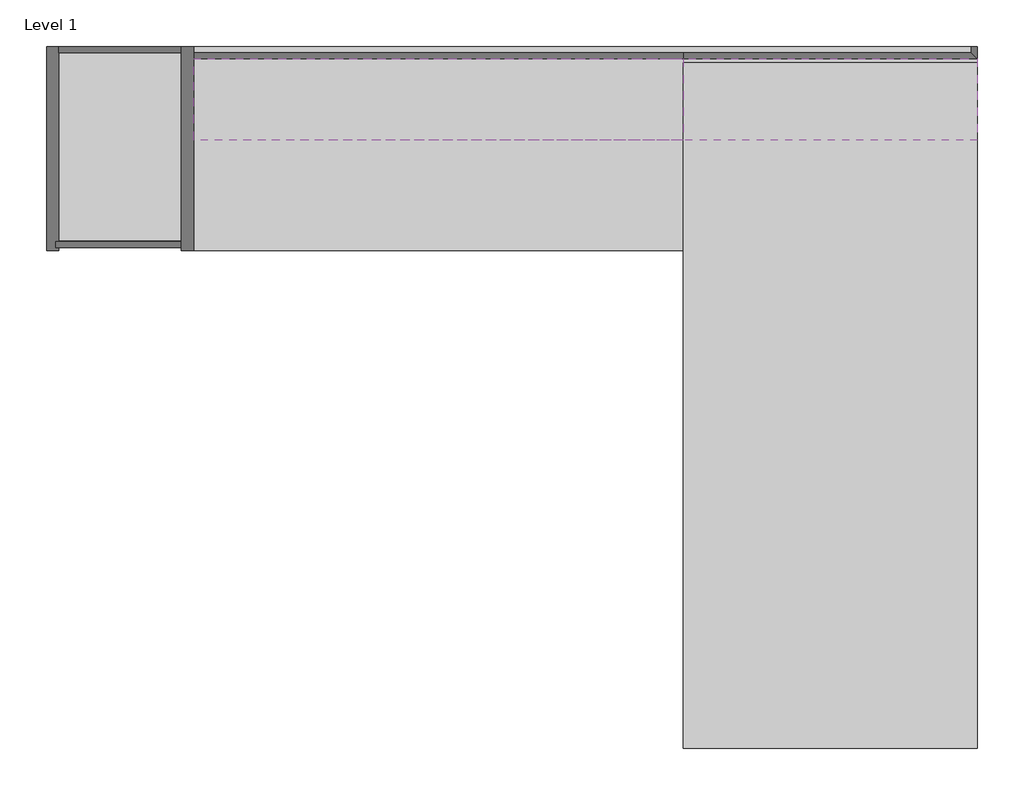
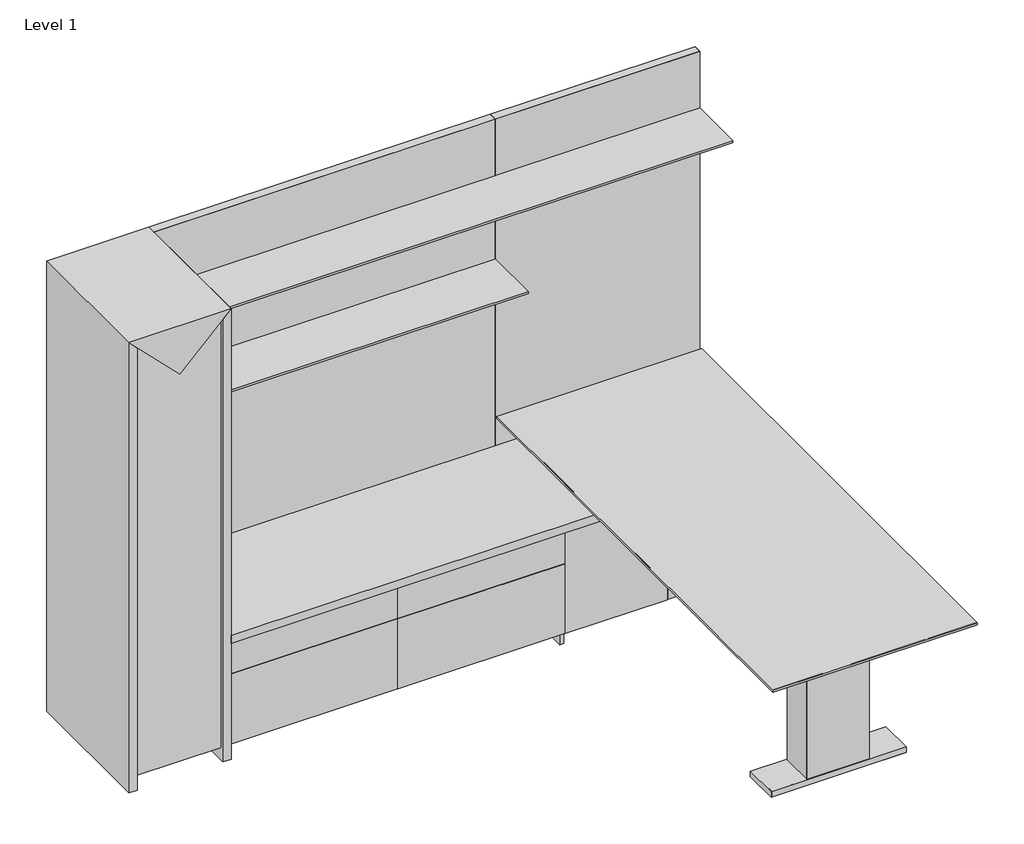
# One storey, incomplete: 11 proxies.
"""IFC4 building model written with IfcOpenShell, lengths in millimetres."""

import ifcopenshell
import ifcopenshell.guid

model = None  # the IFC model being written
_history = None  # IfcOwnerHistory: only IFC2X3 demands one
_inside = {}  # id of a spatial element -> (the spatial element, [elements in it])
_under = {}  # id of a project, library or spatial element -> (it, [spatial elements below it])
_declared = {}  # id of a project -> (the project, [libraries it declares])
_typed = {}  # id of a type object -> (the type object, [elements of that type])
_made_of = {}  # id of a material, layer set ... -> (it, [elements and type objects made of it])


def new_model(schema):
    """Start an empty IFC model of exactly this schema.

    Asked for "IFC4X3", IfcOpenShell would pick the latest addendum, in which some entities
    have other attributes; the version numbers below select the first issue.
    IFC2X3 requires an IfcOwnerHistory on every rooted entity: one is made here for all.
    """
    global model, _history
    if schema == "IFC4X3":
        model = ifcopenshell.file(schema_version=(4, 3, 0, 0))
    else:
        model = ifcopenshell.file(schema=schema)
    _inside.clear()
    _under.clear()
    _declared.clear()
    _typed.clear()
    _made_of.clear()
    _history = None
    if model.schema == "IFC2X3":
        org = make("IfcOrganization", Name="unknown")
        user = make(
            "IfcPersonAndOrganization",
            ThePerson=make("IfcPerson", FamilyName="unknown"),
            TheOrganization=org,
        )
        app = make(
            "IfcApplication",
            ApplicationDeveloper=org,
            Version="unknown",
            ApplicationFullName="unknown",
            ApplicationIdentifier="unknown",
        )
        _history = make(
            "IfcOwnerHistory",
            OwningUser=user,
            OwningApplication=app,
            ChangeAction="ADDED",
            CreationDate=0,
        )
    return model


def make(cls, **values):
    """One entity of the class cls with the attributes given. An attribute that is None is left unset."""
    return model.create_entity(
        cls, **{name: value for name, value in values.items() if value is not None}
    )


def rooted(cls, **values):
    """An entity with a GlobalId (a new one), such as an element, a storey or a relation."""
    return make(cls, GlobalId=ifcopenshell.guid.new(), OwnerHistory=_history, **values)


def si_unit(unit_type, name, prefix=None):
    """IfcSIUnit, for example si_unit("LENGTHUNIT", "METRE", prefix="MILLI")."""
    return make("IfcSIUnit", UnitType=unit_type, Prefix=prefix, Name=name)


def assignment(units):
    """IfcUnitAssignment: the units of a project."""
    return None if units is None else make("IfcUnitAssignment", Units=units)


def point(xyz):
    """IfcCartesianPoint."""
    return None if xyz is None else make("IfcCartesianPoint", Coordinates=xyz)


def direction(xyz):
    """IfcDirection."""
    return None if xyz is None else make("IfcDirection", DirectionRatios=xyz)


def frame(location, z_axis=None, x_axis=None):
    """IfcAxis2Placement3D, a coordinate frame: its origin and axes. An axis left out is left unset."""
    return make(
        "IfcAxis2Placement3D",
        Location=point(location),
        Axis=direction(z_axis),
        RefDirection=direction(x_axis),
    )


def origin():
    """The frame at (0, 0, 0) with its axes left unset."""
    return frame((0.0, 0.0, 0.0))


def place(relative_to, where):
    """IfcLocalPlacement: puts the frame where relative to a parent placement (None: the world)."""
    return make(
        "IfcLocalPlacement", PlacementRelTo=relative_to, RelativePlacement=where
    )


def context(
    kind, dimensions, precision=None, world=None, true_north=None, identifier=None
):
    """IfcGeometricRepresentationContext, for example the 3D "Model" context."""
    return make(
        "IfcGeometricRepresentationContext",
        ContextIdentifier=identifier,
        ContextType=kind,
        CoordinateSpaceDimension=dimensions,
        Precision=precision,
        WorldCoordinateSystem=world,
        TrueNorth=true_north,
    )


def project(units=None, contexts=None):
    """IfcProject with its units and contexts."""
    return rooted(
        "IfcProject",
        Name="project",
        RepresentationContexts=contexts,
        UnitsInContext=assignment(units),
    )


def spatial(cls, under=None, at=None, **own):
    """A site, building, storey or space (cls), placed at a placement, below another one or the project."""
    s = rooted(cls, ObjectPlacement=at, **own)
    if under is not None:
        _under.setdefault(under.id(), (under, []))[1].append(s)
    return s


def polyline(points):
    """IfcPolyline through the points."""
    return make("IfcPolyline", Points=[point(p) for p in points])


def outline(outer, holes=None, kind="AREA"):
    """IfcArbitraryClosedProfileDef: a profile drawn as a closed curve; with holes, ...WithVoids."""
    if holes is None:
        return make("IfcArbitraryClosedProfileDef", ProfileType=kind, OuterCurve=outer)
    return make(
        "IfcArbitraryProfileDefWithVoids",
        ProfileType=kind,
        OuterCurve=outer,
        InnerCurves=holes,
    )


def extrude(swept, where, along, depth):
    """IfcExtrudedAreaSolid: the profile swept, set in the frame where, extruded along a direction by depth."""
    return make(
        "IfcExtrudedAreaSolid",
        SweptArea=swept,
        Position=where,
        ExtrudedDirection=direction(along),
        Depth=depth,
    )


def faces_of(points, faces, orient=None, outer=None):
    """IfcFace entities. A face is a list of loops; a loop is a list of indices into points, from 0.

    orient and outer hold one flag for each loop. By default every Orientation is true, the
    first loop of a face is its IfcFaceOuterBound and the others are IfcFaceBound.
    """
    made = []
    for i, loops in enumerate(faces):
        bounds = []
        for j, loop in enumerate(loops):
            is_outer = j == 0 if outer is None else outer[i][j]
            bounds.append(
                make(
                    "IfcFaceOuterBound" if is_outer else "IfcFaceBound",
                    Bound=make("IfcPolyLoop", Polygon=[points[k] for k in loop]),
                    Orientation=True if orient is None else orient[i][j],
                )
            )
        made.append(make("IfcFace", Bounds=bounds))
    return made


def faceted_brep(points, faces, orient=None, outer=None, voids=None):
    """IfcFacetedBrep: a solid bounded by flat faces; with voids (closed shells), ...WithVoids."""
    shared = [point(p) for p in points]
    hull = make("IfcClosedShell", CfsFaces=faces_of(shared, faces, orient, outer))
    if voids is None:
        return make("IfcFacetedBrep", Outer=hull)
    return make(
        "IfcFacetedBrepWithVoids",
        Outer=hull,
        Voids=[
            make(cls, CfsFaces=faces_of(shared, fs, o, b)) for cls, fs, o, b in voids
        ],
    )


def shape(context_of_items, identifier, shape_type, items):
    """IfcShapeRepresentation: the items that make up one representation, for example the "Body"."""
    return make(
        "IfcShapeRepresentation",
        ContextOfItems=context_of_items,
        RepresentationIdentifier=identifier,
        RepresentationType=shape_type,
        Items=items,
    )


def source(mapping_origin, context_of_items, identifier, shape_type, items):
    """IfcRepresentationMap: a shape defined once, which mapped items show again and again."""
    return make(
        "IfcRepresentationMap",
        MappingOrigin=mapping_origin,
        MappedRepresentation=shape(context_of_items, identifier, shape_type, items),
    )


def transform(
    local_origin,
    x_axis=None,
    y_axis=None,
    z_axis=None,
    scale=None,
    scale2=None,
    scale3=None,
    uniform=True,
):
    """IfcCartesianTransformationOperator3D, or its non-uniform kind. x_axis, y_axis, z_axis: its Axis1, 2, 3."""
    if uniform:
        return make(
            "IfcCartesianTransformationOperator3D",
            Axis1=direction(x_axis),
            Axis2=direction(y_axis),
            LocalOrigin=point(local_origin),
            Scale=scale,
            Axis3=direction(z_axis),
        )
    return make(
        "IfcCartesianTransformationOperator3DnonUniform",
        Axis1=direction(x_axis),
        Axis2=direction(y_axis),
        LocalOrigin=point(local_origin),
        Scale=scale,
        Axis3=direction(z_axis),
        Scale2=scale2,
        Scale3=scale3,
    )


def mapped(mapping_source, mapping_target):
    """IfcMappedItem: shows the shape of a source again, moved by a transform."""
    return make(
        "IfcMappedItem", MappingSource=mapping_source, MappingTarget=mapping_target
    )


def made_of(thing, what):
    """Note that an element or type object is made of a material, layer set ...; save() writes the relation."""
    if what is not None:
        _made_of.setdefault(what.id(), (what, []))[1].append(thing)
    return thing


def element(
    cls,
    number,
    at=None,
    inside=None,
    cuts=None,
    type_object=None,
    material=None,
    context=None,
    identifier="Body",
    shape_type=None,
    held_by="IfcProductDefinitionShape",
    body=None,
    shapes=None,
    **own,
):
    """One element of the class cls, such as IfcWall. Its Tag is "e" and its number.

    at: its placement. inside: the storey or other place that contains it. cuts: it is an
    opening in that element (IfcRelVoidsElement). A single representation is given by context,
    identifier, shape_type and body (its items); several are given by shapes. held_by: the class
    of the entity that holds the representations. save() writes the other relations.
    """
    e = rooted(cls, Tag="e%d" % number, ObjectPlacement=at, **own)
    if body is not None:
        shapes = [shape(context, identifier, shape_type, body)]
    if shapes is not None:
        e.Representation = make(held_by, Representations=shapes)
    if inside is not None:
        _inside.setdefault(inside.id(), (inside, []))[1].append(e)
    if cuts is not None:
        rooted(
            "IfcRelVoidsElement", RelatingBuildingElement=cuts, RelatedOpeningElement=e
        )
    if type_object is not None:
        _typed.setdefault(type_object.id(), (type_object, []))[1].append(e)
    return made_of(e, material)


def aggregate(whole, parts):
    """IfcRelAggregates: a whole, such as a stair, and the parts it consists of."""
    return rooted("IfcRelAggregates", RelatingObject=whole, RelatedObjects=parts)


def save(model, path):
    """Write the relations noted so far, then the file.

    IfcRelAggregates (storeys below a building ...), IfcRelContainedInSpatialStructure (elements
    in a storey), IfcRelDefinesByType, IfcRelAssociatesMaterial and IfcRelDeclares: one each for
    every whole, place, type object, material and project.
    """
    for whole, parts in _under.values():
        aggregate(whole, parts)
    for where, things in _inside.values():
        rooted(
            "IfcRelContainedInSpatialStructure",
            RelatedElements=things,
            RelatingStructure=where,
        )
    for kind, things in _typed.values():
        rooted("IfcRelDefinesByType", RelatedObjects=things, RelatingType=kind)
    for what, things in _made_of.values():
        rooted("IfcRelAssociatesMaterial", RelatedObjects=things, RelatingMaterial=what)
    for by, libraries in _declared.values():
        rooted("IfcRelDeclares", RelatingContext=by, RelatedDefinitions=libraries)
    model.write(path)


def generic_models_b56b2c29(model_context):
    return source(origin(), model_context, "Body", "SweptSolid", [
        extrude(outline(polyline([(234.95, 0.0), (0.0, 0.0), (0.0, 558.8), (234.95, 558.8), (234.95, 0.0)])), frame((0.0, 0.0, -107.95), z_axis=(0.0, 0.0, 1.0), x_axis=(1.0, 0.0, 0.0)), (0.0, 0.0, 1.0), 107.95),
    ])


def generic_models_52880e5b(model_context):
    return source(origin(), model_context, "Body", "SweptSolid", [
        extrude(outline(polyline([(-76.2, 203.2), (-152.4, 279.4), (0.0, 279.4), (-76.2, 203.2)])), frame((0.0, 0.0, 0.0), z_axis=(0.0, 1.0, 0.0), x_axis=(0.0, 0.0, 1.0)), (0.0, 0.0, 1.0), 557.784),
        extrude(outline(polyline([(0.0, 0.0), (-139.7, 139.7), (0.0, 279.4), (0.0, 0.0)])), frame((0.0, 0.0, 0.0), z_axis=(0.0, 1.0, 0.0), x_axis=(0.0, 0.0, 1.0)), (0.0, 0.0, 1.0), 557.784),
        extrude(outline(polyline([(-152.4, 0.0), (-76.2, 76.2), (0.0, 0.0), (-152.4, 0.0)])), frame((0.0, 0.0, 0.0), z_axis=(0.0, 1.0, 0.0), x_axis=(0.0, 0.0, 1.0)), (0.0, 0.0, 1.0), 557.784),
        extrude(outline(polyline([(-12.7, 139.7), (-152.4, 0.0), (-152.4, 279.4), (-12.7, 139.7)])), frame((0.0, 0.0, 0.0), z_axis=(0.0, 1.0, 0.0), x_axis=(0.0, 0.0, 1.0)), (0.0, 0.0, 1.0), 557.784),
    ])


def generic_models_b56694ea(model_context):
    return source(origin(), model_context, "Body", "Brep", [
        faceted_brep([(1417.3566482, 0.0, -254.0), (1524.0, 28.575, -254.0), (1524.0, 28.575, 0.0), (1417.3566482, 0.0, -106.6433518), (0.0, 0.0, -106.6433518), (0.0, 0.0, -254.0), (0.0, 28.575, 0.0), (0.0, 38.1, 0.0), (0.0, 38.1, -254.0), (1524.0, 38.1, 0.0), (1524.0, 38.1, -254.0)], [[[0, 1, 2, 3]], [[0, 3, 4, 5]], [[3, 2, 6, 4]], [[4, 6, 7, 8, 5]], [[6, 2, 9, 7]], [[1, 0, 5, 8, 10]], [[2, 1, 10, 9]], [[9, 10, 8, 7]]]),
    ])


def generic_models_a2e1cb9b(model_context):
    return source(origin(), model_context, "Body", "SweptSolid", [
        extrude(outline(polyline([(109.5375, 24.384), (157.1625, 24.384), (157.1625, -1.016), (109.5375, -1.016), (109.5375, 24.384)])), frame((0.0, 0.0, -600.075), z_axis=(0.0, 0.0, 1.0), x_axis=(1.0, 0.0, 0.0)), (0.0, 0.0, 1.0), 596.9),
        extrude(outline(polyline([(1.5875, 24.384), (49.2125, 24.384), (49.2125, -1.016), (1.5875, -1.016), (1.5875, 24.384)])), frame((0.0, 0.0, -600.075), z_axis=(0.0, 0.0, 1.0), x_axis=(1.0, 0.0, 0.0)), (0.0, 0.0, 1.0), 596.9),
        extrude(outline(polyline([(158.75, 25.4), (158.75, 0.0), (0.0, 0.0), (0.0, 25.4), (158.75, 25.4)])), frame((0.0, 0.0, -603.25), z_axis=(0.0, 0.0, 1.0), x_axis=(1.0, 0.0, 0.0)), (0.0, 0.0, 1.0), 603.25),
    ])


def generic_models_8c807e3c(model_context):
    return source(origin(), model_context, "Body", "SweptSolid", [
        extrude(outline(polyline([(2400.3, -457.2), (2400.3, -482.6), (0.0, -482.6), (0.0, -457.2), (2400.3, -457.2)])), frame((0.0, 0.0, -615.95), z_axis=(0.0, 0.0, 1.0), x_axis=(1.0, 0.0, 0.0)), (0.0, 0.0, 1.0), 584.2),
        extrude(outline(polyline([(0.0, -546.1), (0.0, 0.0), (2400.3, 0.0), (2400.3, -546.1), (0.0, -546.1)])), frame((0.0, 0.0, -635.0), z_axis=(0.0, 0.0, 1.0), x_axis=(1.0, 0.0, 0.0)), (0.0, 0.0, 1.0), 19.05),
        extrude(outline(polyline([(747.7125, 9.525), (747.7125, -150.01875), (2.38125, -150.01875), (2.38125, 9.525), (747.7125, 9.525)])), frame((0.0, 0.0, -28.575), z_axis=(0.0, 0.0, 1.0), x_axis=(1.0, 0.0, 0.0)), (0.0, 0.0, 1.0), 19.05),
        extrude(outline(polyline([(1495.425, 9.525), (1495.425, -150.01875), (750.09375, -150.01875), (750.09375, 9.525), (1495.425, 9.525)])), frame((0.0, 0.0, -28.575), z_axis=(0.0, 0.0, 1.0), x_axis=(1.0, 0.0, 0.0)), (0.0, 0.0, 1.0), 19.05),
        extrude(outline(polyline([(1952.625, 9.525), (1952.625, -482.6), (1497.80625, -482.6), (1497.80625, 9.525), (1952.625, 9.525)])), frame((0.0, 0.0, -28.575), z_axis=(0.0, 0.0, 1.0), x_axis=(1.0, 0.0, 0.0)), (0.0, 0.0, 1.0), 19.05),
        extrude(outline(polyline([(2409.825, -482.6), (1955.00625, -482.6), (1955.00625, 9.525), (2409.825, 9.525), (2409.825, -482.6)])), frame((0.0, 0.0, -28.575), z_axis=(0.0, 0.0, 1.0), x_axis=(1.0, 0.0, 0.0)), (0.0, 0.0, 1.0), 19.05),
        extrude(outline(polyline([(747.7125, -482.6), (2.38125, -482.6), (2.38125, -152.4), (747.7125, -152.4), (747.7125, -482.6)])), frame((0.0, 0.0, -28.575), z_axis=(0.0, 0.0, 1.0), x_axis=(1.0, 0.0, 0.0)), (0.0, 0.0, 1.0), 19.05),
        extrude(outline(polyline([(1495.425, -482.6), (750.09375, -482.6), (750.09375, -152.4), (1495.425, -152.4), (1495.425, -482.6)])), frame((0.0, 0.0, -28.575), z_axis=(0.0, 0.0, 1.0), x_axis=(1.0, 0.0, 0.0)), (0.0, 0.0, 1.0), 19.05),
        extrude(outline(polyline([(2400.3, 0.0), (2400.3, -546.1), (1504.95, -546.1), (1504.95, 0.0), (2400.3, 0.0)])), frame((0.0, 0.0, -311.2135), z_axis=(0.0, 0.0, 1.0), x_axis=(1.0, 0.0, 0.0)), (0.0, 0.0, 1.0), 19.05),
        extrude(outline(polyline([(762.0, -457.2), (742.95, -457.2), (742.95, 0.0), (762.0, 0.0), (762.0, -457.2)])), frame((0.0, 0.0, -615.95), z_axis=(0.0, 0.0, 1.0), x_axis=(1.0, 0.0, 0.0)), (0.0, 0.0, 1.0), 584.2),
        extrude(outline(polyline([(0.0, -482.6), (2400.3, -482.6), (2400.3, -546.1), (0.0, -546.1), (0.0, -482.6)])), frame((0.0, 0.0, -266.7), z_axis=(0.0, 0.0, 1.0), x_axis=(1.0, 0.0, 0.0)), (0.0, 0.0, 1.0), 63.5),
        extrude(outline(polyline([(1485.9, -546.1), (1485.9, 0.0), (1504.95, 0.0), (1504.95, -546.1), (1485.9, -546.1)])), frame((0.0, 0.0, -615.95), z_axis=(0.0, 0.0, 1.0), x_axis=(1.0, 0.0, 0.0)), (0.0, 0.0, 1.0), 584.2),
        extrude(outline(polyline([(19.05, -457.2), (0.0, -457.2), (0.0, 0.0), (19.05, 0.0), (19.05, -457.2)])), frame((0.0, 0.0, -615.95), z_axis=(0.0, 0.0, 1.0), x_axis=(1.0, 0.0, 0.0)), (0.0, 0.0, 1.0), 584.2),
        extrude(outline(polyline([(1504.95, -511.6576), (1504.95, -492.6076), (2400.3, -492.6076), (2400.3, -511.6576), (1504.95, -511.6576)])), frame((0.0, 0.0, -615.95), z_axis=(0.0, 0.0, 1.0), x_axis=(1.0, 0.0, 0.0)), (0.0, 0.0, 1.0), 304.7365),
        extrude(outline(polyline([(2438.4, 38.1), (2400.3, 0.0), (0.0, 0.0), (0.0, 38.1), (2438.4, 38.1)])), frame((0.0, 0.0, -635.0), z_axis=(0.0, 0.0, 1.0), x_axis=(1.0, 0.0, 0.0)), (0.0, 0.0, 1.0), 635.0),
        extrude(outline(polyline([(2438.4, 38.1), (2438.4, -546.1), (2400.3, -546.1), (2400.3, 0.0), (2438.4, 38.1)])), frame((0.0, 0.0, -635.0), z_axis=(0.0, 0.0, 1.0), x_axis=(1.0, 0.0, 0.0)), (0.0, 0.0, 1.0), 635.0),
    ])


def generic_models_f8e0482d(model_context):
    return source(origin(), model_context, "Body", "Brep", [
        faceted_brep([(914.4, 1543.05, -19.05), (914.4, 1543.05, 19.05), (914.4, 0.0, 19.05), (914.4, 0.0, -19.05), (895.35, 1524.0, 0.0), (895.35, 0.0, 0.0), (895.35, 1524.0, -19.05), (895.35, 0.0, -19.05)], [[[0, 1, 2, 3]], [[1, 4, 5, 2]], [[4, 6, 7, 5]], [[6, 0, 3, 7]], [[3, 2, 5, 7]], [[4, 1, 0, 6]]]),
        faceted_brep([(895.35, 1524.0, 0.0), (914.4, 1543.05, 19.05), (914.4, 0.0, 19.05), (895.35, 0.0, 0.0), (0.0, 0.0, 0.0), (0.0, 1524.0, 0.0), (0.0, 0.0, 19.05), (0.0, 1543.05, 19.05)], [[[0, 1, 2, 3]], [[0, 3, 4, 5]], [[3, 2, 6, 4]], [[1, 0, 5, 7]], [[7, 5, 4, 6]], [[2, 1, 7, 6]]]),
        faceted_brep([(895.35, 1524.0, -19.05), (914.4, 1543.05, -19.05), (914.4, 1543.05, 19.05), (895.35, 1524.0, 0.0), (0.0, 1524.0, -19.05), (0.0, 1543.05, -19.05), (0.0, 1524.0, 0.0), (0.0, 1543.05, 19.05)], [[[0, 1, 2, 3]], [[1, 0, 4, 5]], [[0, 3, 6, 4]], [[5, 7, 2, 1]], [[3, 2, 7, 6]], [[7, 5, 4, 6]]]),
    ])


def generic_models_f49f403f(model_context):
    return source(origin(), model_context, "Body", "SweptSolid", [
        extrude(outline(polyline([(38.1, 63.5), (38.1, 88.9), (419.1, 88.9), (419.1, 63.5), (38.1, 63.5)])), frame((0.0, 0.0, -615.95), z_axis=(0.0, 0.0, 1.0), x_axis=(1.0, 0.0, 0.0)), (0.0, 0.0, 1.0), 584.2),
        extrude(outline(polyline([(457.2, 2127.25), (228.6, 1898.65), (0.0, 2127.25), (457.2, 2127.25)])), frame((0.0, 0.0, -635.0), z_axis=(0.0, 0.0, 1.0), x_axis=(1.0, 0.0, 0.0)), (0.0, 0.0, 1.0), 635.0),
        extrude(outline(polyline([(419.1, 0.0), (419.1, 2089.15), (457.2, 2127.25), (457.2, 0.0), (419.1, 0.0)])), frame((0.0, 0.0, -635.0), z_axis=(0.0, 0.0, 1.0), x_axis=(1.0, 0.0, 0.0)), (0.0, 0.0, 1.0), 635.0),
        extrude(outline(polyline([(38.1, 63.5), (419.1, 63.5), (419.1, 0.0), (38.1, 0.0), (38.1, 63.5)])), frame((0.0, 0.0, -266.7), z_axis=(0.0, 0.0, 1.0), x_axis=(1.0, 0.0, 0.0)), (0.0, 0.0, 1.0), 63.5),
        extrude(outline(polyline([(419.1, 0.0), (38.1, 0.0), (38.1, 2089.15), (419.1, 2089.15), (419.1, 0.0)])), frame((0.0, 0.0, -635.0), z_axis=(0.0, 0.0, 1.0), x_axis=(1.0, 0.0, 0.0)), (0.0, 0.0, 1.0), 19.05),
        extrude(outline(polyline([(428.625, 2098.675), (428.625, 63.5), (28.575, 63.5), (28.575, 2098.675), (428.625, 2098.675)])), frame((0.0, 0.0, -28.575), z_axis=(0.0, 0.0, 1.0), x_axis=(1.0, 0.0, 0.0)), (0.0, 0.0, 1.0), 19.05),
        extrude(outline(polyline([(0.0, 2127.25), (38.1, 2089.15), (38.1, 0.0), (0.0, 0.0), (0.0, 2127.25)])), frame((0.0, 0.0, -635.0), z_axis=(0.0, 0.0, 1.0), x_axis=(1.0, 0.0, 0.0)), (0.0, 0.0, 1.0), 635.0),
    ])


def generic_models_580d9588(model_context):
    return source(origin(), model_context, "Body", "SweptSolid", [
        extrude(outline(polyline([(1543.05, 19.05), (1524.0, 0.0), (0.0, 0.0), (0.0, 19.05), (1543.05, 19.05)])), frame((0.0, 0.0, 0.0), z_axis=(1.0, 0.0, 0.0), x_axis=(0.0, 1.0, 0.0)), (0.0, 0.0, 1.0), 1524.0),
        extrude(outline(polyline([(1543.05, 19.05), (1543.05, -19.05), (1524.0, -19.05), (1524.0, 0.0), (1543.05, 19.05)])), frame((0.0, 0.0, 0.0), z_axis=(1.0, 0.0, 0.0), x_axis=(0.0, 1.0, 0.0)), (0.0, 0.0, 1.0), 1524.0),
    ])


def generic_models_ffb11fbf(model_context):
    return source(origin(), model_context, "Body", "SolidModel", [
        faceted_brep([(-1014.555968, 22.225, 404.955968), (-609.6, -86.2826246, 0.0), (-1014.555968, 22.225, -404.955968), (-609.6, -99.4306321, 0.0), (-1063.625, 22.225, 454.025), (-1063.625, 22.225, -454.025), (609.6, -86.2826246, 0.0), (1014.555968, 22.225, -404.955968), (1063.625, 22.225, -454.025), (609.6, -99.4306321, 0.0), (1014.555968, 22.225, 404.955968), (1063.625, 22.225, 454.025)], [[[0, 1, 2]], [[3, 4, 5]], [[1, 6, 7, 2]], [[8, 9, 3, 5]], [[6, 10, 7]], [[9, 8, 11]], [[4, 11, 8, 5], [0, 2, 7, 10]], [[9, 11, 4, 3]], [[10, 6, 1, 0]]]),
        extrude(outline(polyline([(1066.8, 22.225), (-1066.8, 22.225), (-1066.8, 31.75), (1066.8, 31.75), (1066.8, 22.225)])), frame((0.0, 0.0, -457.2), z_axis=(0.0, 0.0, 1.0), x_axis=(1.0, 0.0, 0.0)), (0.0, 0.0, 1.0), 914.4),
        extrude(outline(polyline([(1063.625, 22.225), (-1063.625, 22.225), (-1063.625, 31.75), (1063.625, 31.75), (1063.625, 22.225)])), frame((0.0, 0.0, -454.025), z_axis=(0.0, 0.0, 1.0), x_axis=(1.0, 0.0, 0.0)), (0.0, 0.0, 1.0), 908.05),
    ])


def generic_models_57509ba5(model_context):
    return source(origin(), model_context, "Body", "Brep", [
        faceted_brep([(2331.7566482, 0.0, -254.0), (2438.4, 28.575, -254.0), (2438.4, 28.575, 0.0), (2331.7566482, 0.0, -106.6433518), (0.0, 0.0, -106.6433518), (0.0, 0.0, -254.0), (0.0, 28.575, 0.0), (0.0, 38.1, 0.0), (0.0, 38.1, -254.0), (2438.4, 38.1, 0.0), (2438.4, 38.1, -254.0)], [[[0, 1, 2, 3]], [[0, 3, 4, 5]], [[3, 2, 6, 4]], [[4, 6, 7, 8, 5]], [[6, 2, 9, 7]], [[1, 0, 5, 8, 10]], [[2, 1, 10, 9]], [[9, 10, 8, 7]]]),
    ])


model = new_model("IFC4")

# Units and contexts
model_context = context("Model", 3, world=origin())
ifc_project = project(units=[si_unit("LENGTHUNIT", "METRE", prefix="MILLI")], contexts=[model_context])

# Site, building, storey
site = spatial("IfcSite", under=ifc_project)
building = spatial("IfcBuilding", under=site)
storey = spatial("IfcBuildingStorey", under=building, Name="Level 1", Elevation=0.0)

# Proxies
placement = place(None, origin())
generic_models_shape = generic_models_b56b2c29(model_context)
element("IfcBuildingElementProxy", 1, Name="AERO^OFFICE 1_DESK SUPPORT LEG-SMALL END SHROUD", ObjectType="AERO^OFFICE 1_DESK SUPPORT LEG-SMALL END SHROUD", at=placement, inside=storey, context=model_context, shape_type="MappedRepresentation", body=[
    mapped(generic_models_shape, transform((2320.925, -552.45, 139.7), x_axis=(1.0, 0.0, 0.0), y_axis=(0.0, 0.0, 1.0), z_axis=(0.0, -1.0, 0.0))),
])
element("IfcBuildingElementProxy", 2, Name="AERO^OFFICE 1_DESK SUPPORT LEG-SMALL END SHROUD", ObjectType="AERO^OFFICE 1_DESK SUPPORT LEG-SMALL END SHROUD", at=placement, inside=storey, context=model_context, shape_type="MappedRepresentation", body=[
    mapped(generic_models_shape, transform((2555.875, -1768.7227, 139.7), x_axis=(-1.0, 0.0, 0.0), y_axis=(0.0, 0.0, 1.0), z_axis=(0.0, 1.0, 0.0))),
])
generic_models_2_shape = generic_models_52880e5b(model_context)
element("IfcBuildingElementProxy", 3, Name="AERO^OFFICE 1_DESK SUPPORT LEG-PARTS SOLID", ObjectType="AERO^OFFICE 1_DESK SUPPORT LEG-PARTS SOLID", at=placement, inside=storey, context=model_context, shape_type="MappedRepresentation", body=[
    mapped(generic_models_2_shape, transform((2578.1, -1746.4977, 26.416), x_axis=(-1.0, 0.0, 0.0), y_axis=(0.0, 0.0, 1.0), z_axis=(0.0, 1.0, 0.0))),
])
generic_models_3_shape = generic_models_b56694ea(model_context)
element("IfcBuildingElementProxy", 4, Name="AERO^OFFICE 1_WALL HUNG SHELVES-10x60", ObjectType="AERO^OFFICE 1_WALL HUNG SHELVES-10x60", at=placement, inside=storey, context=model_context, shape_type="MappedRepresentation", body=[
    mapped(generic_models_3_shape, transform((457.2, -292.1, 1428.75), x_axis=(1.0, 0.0, 0.0), y_axis=(0.0, 0.0, 1.0), z_axis=(0.0, -1.0, 0.0))),
])
generic_models_4_shape = generic_models_a2e1cb9b(model_context)
element("IfcBuildingElementProxy", 5, Name="AERO^OFFICE 1_6 x 24 Base-REV2", ObjectType="AERO^OFFICE 1_6 x 24 Base-REV2", at=placement, inside=storey, context=model_context, shape_type="MappedRepresentation", body=[
    mapped(generic_models_4_shape, transform((2136.775, -1743.3227, 1.016), x_axis=(0.0, -1.0, 0.0), y_axis=(0.0, 0.0, 1.0), z_axis=(-1.0, 0.0, 0.0))),
])
generic_models_5_shape = generic_models_8c807e3c(model_context)
element("IfcBuildingElementProxy", 6, Name="AERO^OFFICE 1_96 CREDENZA RIGHT-PARTS SOLID", ObjectType="AERO^OFFICE 1_96 CREDENZA RIGHT-PARTS SOLID", at=placement, inside=storey, context=model_context, shape_type="MappedRepresentation", body=[
    mapped(generic_models_5_shape, transform((457.2, -635.0, 546.1), x_axis=(1.0, 0.0, 0.0), y_axis=(0.0, 0.0, 1.0), z_axis=(0.0, -1.0, 0.0))),
])
generic_models_6_shape = generic_models_f8e0482d(model_context)
element("IfcBuildingElementProxy", 7, Name="AERO^OFFICE 1_WALL HUNGS-36x60 RT", ObjectType="AERO^OFFICE 1_WALL HUNGS-36x60 RT", at=placement, inside=storey, context=model_context, shape_type="MappedRepresentation", body=[
    mapped(generic_models_6_shape, transform((1981.2, -19.05, 584.2), x_axis=(1.0, 0.0, 0.0), y_axis=(0.0, 0.0, 1.0), z_axis=(0.0, -1.0, 0.0))),
])
generic_models_7_shape = generic_models_f49f403f(model_context)
element("IfcBuildingElementProxy", 8, Name="AERO^OFFICE 1_WARDROBE LEFT-PARTS SOLID", ObjectType="AERO^OFFICE 1_WARDROBE LEFT-PARTS SOLID", at=placement, inside=storey, context=model_context, shape_type="MappedRepresentation", body=[
    mapped(generic_models_7_shape, transform((0.0, -635.0, 0.0), x_axis=(1.0, 0.0, 0.0), y_axis=(0.0, 0.0, 1.0), z_axis=(0.0, -1.0, 0.0))),
])
generic_models_8_shape = generic_models_580d9588(model_context)
element("IfcBuildingElementProxy", 9, Name="AERO^OFFICE 1_WALL HUNGS-60x60 LT", ObjectType="AERO^OFFICE 1_WALL HUNGS-60x60 LT", at=placement, inside=storey, context=model_context, shape_type="MappedRepresentation", body=[
    mapped(generic_models_8_shape, transform((457.2, -19.05, 584.2), x_axis=(1.0, 0.0, 0.0), y_axis=(0.0, 0.0, 1.0), z_axis=(0.0, -1.0, 0.0))),
])
generic_models_9_shape = generic_models_ffb11fbf(model_context)
element("IfcBuildingElementProxy", 10, Name="AERO^OFFICE 1_36x84 TABLE STYLE-WORKSURFACE", ObjectType="AERO^OFFICE 1_36x84 TABLE STYLE-WORKSURFACE", at=placement, inside=storey, context=model_context, shape_type="MappedRepresentation", body=[
    mapped(generic_models_9_shape, transform((2438.4, -1117.6, 698.5), x_axis=(0.0, 1.0, 0.0), y_axis=(0.0, 0.0, 1.0), z_axis=(1.0, 0.0, 0.0))),
])
generic_models_10_shape = generic_models_57509ba5(model_context)
element("IfcBuildingElementProxy", 11, Name="AERO^OFFICE 1_WALL HUNG SHELVES-10x96", ObjectType="AERO^OFFICE 1_WALL HUNG SHELVES-10x96", at=placement, inside=storey, context=model_context, shape_type="MappedRepresentation", body=[
    mapped(generic_models_10_shape, transform((457.2, -292.1, 1822.45), x_axis=(1.0, 0.0, 0.0), y_axis=(0.0, 0.0, 1.0), z_axis=(0.0, -1.0, 0.0))),
])

save(model, "model.ifc")
